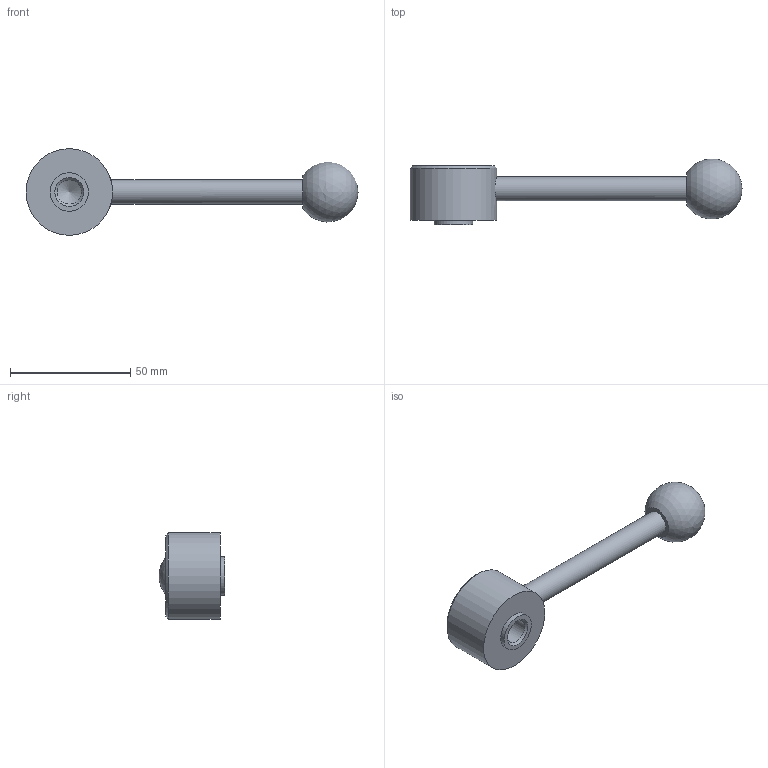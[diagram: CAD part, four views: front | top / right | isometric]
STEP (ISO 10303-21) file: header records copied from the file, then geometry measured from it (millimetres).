
FILE_DESCRIPTION( ( 'STEP AP203' ), '1' );
FILE_NAME( 'C:/Temp/Ganter_Step_05_03_2020/data/2_1/gn_125/gn_125_mb/gn_125_mb_d/Flat Adjustable Lever GN 125-36-M12-D.stp', '2020-03-05T11:00:39', ( 'License CC BY-ND 4.0' ), ( 'CADENAS' ), ' ', 'PARTsolutions', ' ' );
FILE_SCHEMA( ( 'CONFIG_CONTROL_DESIGN' ) );
Length unit declared in the file: millimetre
Products named in the file (1): _Flat Adjustable Lever GN 125-36-M12-D
Bounding box: 138 x 27.38 x 36 mm (x, y, z)
Volume: 36150 mm3; surface area: 9360.2 mm2
Topology: 1 solids, 1 shells, 14 faces, 25 edges, 16 vertices
Faces by surface type: cylinder 5, plane 5, cone 3, sphere 1
Full cylindrical faces by diameter (mm): 10 x1, 10.106 x1, 16 x1, 26 x1, 36 x1
Entity records: 396 total; most frequent: CARTESIAN_POINT 116, DIRECTION 54, AXIS2_PLACEMENT_3D 27, EDGE_LOOP 26, ORIENTED_EDGE 26, FACE_OUTER_BOUND 19, VERTEX_POINT 15, ADVANCED_FACE 14
